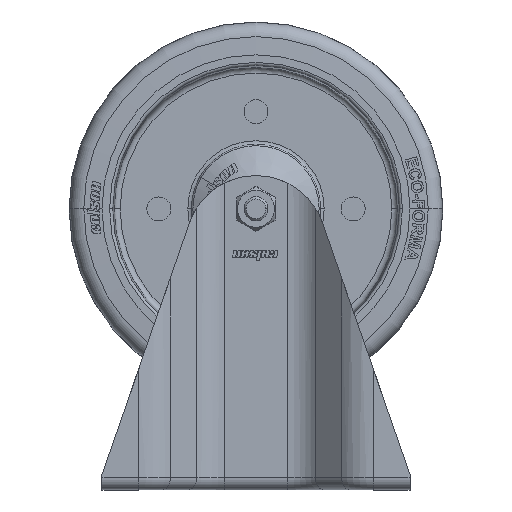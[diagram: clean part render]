
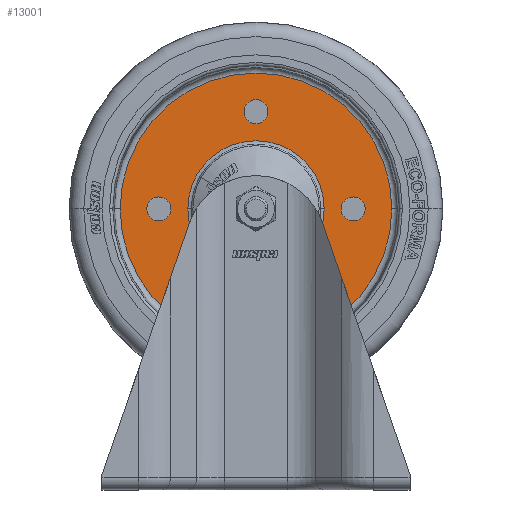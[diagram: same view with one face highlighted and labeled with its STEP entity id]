
A CAD part, top view. The second image highlights one B-rep face of the part: STEP entity #13001.
In plain terms, the highlighted planar face has unit normal (0, 0, 1) as drawn and (-1, 0, 0) by its records, which use the part's own axes.
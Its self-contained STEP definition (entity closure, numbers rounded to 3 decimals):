
#961 = DIRECTION ( 'NONE',  ( -1., 0., 0. ) ) ;
#1306 = DIRECTION ( 'NONE',  ( -1., 0., 0. ) ) ;
#2734 = AXIS2_PLACEMENT_3D ( 'NONE', #58687, #52808, #71253 ) ;
#4336 = CARTESIAN_POINT ( 'NONE',  ( -2., -32.5, 0. ) ) ;
#5084 = EDGE_CURVE ( 'NONE', #31053, #28667, #10895, .T. ) ;
#5343 = DIRECTION ( 'NONE',  ( 0., 0., 1. ) ) ;
#5409 = PLANE ( 'NONE',  #42028 ) ;
#5410 = CARTESIAN_POINT ( 'NONE',  ( -2., 0., -45.421 ) ) ;
#6661 = ORIENTED_EDGE ( 'NONE', *, *, #62305, .F. ) ;
#7422 = DIRECTION ( 'NONE',  ( 0., 0., 1. ) ) ;
#7760 = ORIENTED_EDGE ( 'NONE', *, *, #70949, .F. ) ;
#8503 = FACE_BOUND ( 'NONE', #46067, .T. ) ;
#10394 = ORIENTED_EDGE ( 'NONE', *, *, #43419, .F. ) ;
#10895 = CIRCLE ( 'NONE', #41081, 45.421 ) ;
#11906 = CARTESIAN_POINT ( 'NONE',  ( -2., 0., 0. ) ) ;
#12377 = CARTESIAN_POINT ( 'NONE',  ( -2., 0., 45.421 ) ) ;
#12525 = CARTESIAN_POINT ( 'NONE',  ( -2., 0., -36.5 ) ) ;
#12646 = DIRECTION ( 'NONE',  ( 0., 0., -1. ) ) ;
#13001 = ADVANCED_FACE ( 'NONE', ( #60869, #8503, #44600, #75246, #69502, #18909 ), #5409, .F. ) ;
#13676 = DIRECTION ( 'NONE',  ( 1., 0., 0. ) ) ;
#14541 = EDGE_LOOP ( 'NONE', ( #21733, #25104 ) ) ;
#14621 = CIRCLE ( 'NONE', #57820, 4. ) ;
#17137 = EDGE_CURVE ( 'NONE', #63671, #23058, #71146, .T. ) ;
#17236 = CARTESIAN_POINT ( 'NONE',  ( -2., 0., 0. ) ) ;
#18909 = FACE_BOUND ( 'NONE', #33753, .T. ) ;
#19173 = CARTESIAN_POINT ( 'NONE',  ( -2., 32.5, -4. ) ) ;
#19527 = AXIS2_PLACEMENT_3D ( 'NONE', #27380, #51623, #21035 ) ;
#20878 = VERTEX_POINT ( 'NONE', #12525 ) ;
#21035 = DIRECTION ( 'NONE',  ( 0., 0., 1. ) ) ;
#21733 = ORIENTED_EDGE ( 'NONE', *, *, #50581, .F. ) ;
#22369 = AXIS2_PLACEMENT_3D ( 'NONE', #4336, #46559, #40664 ) ;
#22648 = EDGE_LOOP ( 'NONE', ( #7760, #68994 ) ) ;
#23058 = VERTEX_POINT ( 'NONE', #72019 ) ;
#23475 = CARTESIAN_POINT ( 'NONE',  ( -2., 20.893, 0. ) ) ;
#24592 = EDGE_CURVE ( 'NONE', #20878, #42327, #14621, .T. ) ;
#24759 = CARTESIAN_POINT ( 'NONE',  ( -2., -32.5, 0. ) ) ;
#25104 = ORIENTED_EDGE ( 'NONE', *, *, #24592, .F. ) ;
#25150 = CIRCLE ( 'NONE', #73281, 4. ) ;
#25377 = CIRCLE ( 'NONE', #19527, 4. ) ;
#26169 = CARTESIAN_POINT ( 'NONE',  ( -2., 0., 0. ) ) ;
#27380 = CARTESIAN_POINT ( 'NONE',  ( -2., 0., 32.5 ) ) ;
#27461 = CARTESIAN_POINT ( 'NONE',  ( -2., 0., -22.791 ) ) ;
#28667 = VERTEX_POINT ( 'NONE', #5410 ) ;
#29602 = VERTEX_POINT ( 'NONE', #53202 ) ;
#29713 = EDGE_CURVE ( 'NONE', #31919, #68475, #46601, .T. ) ;
#30876 = DIRECTION ( 'NONE',  ( -1., 0., 0. ) ) ;
#31053 = VERTEX_POINT ( 'NONE', #12377 ) ;
#31549 = AXIS2_PLACEMENT_3D ( 'NONE', #26169, #13676, #44760 ) ;
#31915 = EDGE_CURVE ( 'NONE', #29602, #32644, #25377, .T. ) ;
#31919 = VERTEX_POINT ( 'NONE', #32702 ) ;
#32644 = VERTEX_POINT ( 'NONE', #73825 ) ;
#32702 = CARTESIAN_POINT ( 'NONE',  ( -2., 0., 22.791 ) ) ;
#33753 = EDGE_LOOP ( 'NONE', ( #57226, #33971 ) ) ;
#33833 = CIRCLE ( 'NONE', #47971, 4. ) ;
#33971 = ORIENTED_EDGE ( 'NONE', *, *, #29713, .T. ) ;
#34067 = AXIS2_PLACEMENT_3D ( 'NONE', #11906, #60899, #54465 ) ;
#35054 = CIRCLE ( 'NONE', #34067, 22.791 ) ;
#35254 = DIRECTION ( 'NONE',  ( -1., 0., 0. ) ) ;
#36708 = CIRCLE ( 'NONE', #60251, 4. ) ;
#37068 = DIRECTION ( 'NONE',  ( -1., 0., 0. ) ) ;
#39941 = EDGE_CURVE ( 'NONE', #64552, #77115, #36708, .T. ) ;
#40351 = CIRCLE ( 'NONE', #2734, 4. ) ;
#40664 = DIRECTION ( 'NONE',  ( 0., 0., 1. ) ) ;
#41081 = AXIS2_PLACEMENT_3D ( 'NONE', #17236, #35254, #59826 ) ;
#41185 = AXIS2_PLACEMENT_3D ( 'NONE', #67312, #961, #12646 ) ;
#41451 = DIRECTION ( 'NONE',  ( -1., 0., 0. ) ) ;
#41707 = CARTESIAN_POINT ( 'NONE',  ( -2., 32.5, 0. ) ) ;
#42028 = AXIS2_PLACEMENT_3D ( 'NONE', #23475, #52188, #64229 ) ;
#42327 = VERTEX_POINT ( 'NONE', #48770 ) ;
#43419 = EDGE_CURVE ( 'NONE', #23058, #63671, #25150, .T. ) ;
#44600 = FACE_BOUND ( 'NONE', #14541, .T. ) ;
#44760 = DIRECTION ( 'NONE',  ( 0., 0., -1. ) ) ;
#45159 = EDGE_LOOP ( 'NONE', ( #47244, #6661 ) ) ;
#46067 = EDGE_LOOP ( 'NONE', ( #76543, #10394 ) ) ;
#46559 = DIRECTION ( 'NONE',  ( -1., 0., 0. ) ) ;
#46601 = CIRCLE ( 'NONE', #31549, 22.791 ) ;
#47244 = ORIENTED_EDGE ( 'NONE', *, *, #39941, .F. ) ;
#47971 = AXIS2_PLACEMENT_3D ( 'NONE', #67499, #30876, #61587 ) ;
#48016 = EDGE_CURVE ( 'NONE', #68475, #31919, #35054, .T. ) ;
#48770 = CARTESIAN_POINT ( 'NONE',  ( -2., 0., -28.5 ) ) ;
#49326 = ORIENTED_EDGE ( 'NONE', *, *, #5084, .T. ) ;
#49329 = DIRECTION ( 'NONE',  ( 0., 0., 1. ) ) ;
#50581 = EDGE_CURVE ( 'NONE', #42327, #20878, #33833, .T. ) ;
#51623 = DIRECTION ( 'NONE',  ( -1., 0., 0. ) ) ;
#52159 = CIRCLE ( 'NONE', #41185, 45.421 ) ;
#52188 = DIRECTION ( 'NONE',  ( 1., 0., 0. ) ) ;
#52808 = DIRECTION ( 'NONE',  ( -1., 0., 0. ) ) ;
#52988 = AXIS2_PLACEMENT_3D ( 'NONE', #75111, #1306, #7422 ) ;
#53202 = CARTESIAN_POINT ( 'NONE',  ( -2., 0., 28.5 ) ) ;
#54465 = DIRECTION ( 'NONE',  ( 0., 0., -1. ) ) ;
#56387 = CIRCLE ( 'NONE', #52988, 4. ) ;
#56741 = CARTESIAN_POINT ( 'NONE',  ( -2., 32.5, 4. ) ) ;
#57226 = ORIENTED_EDGE ( 'NONE', *, *, #48016, .T. ) ;
#57820 = AXIS2_PLACEMENT_3D ( 'NONE', #73697, #37068, #49329 ) ;
#58687 = CARTESIAN_POINT ( 'NONE',  ( -2., 32.5, 0. ) ) ;
#59587 = EDGE_CURVE ( 'NONE', #28667, #31053, #52159, .T. ) ;
#59826 = DIRECTION ( 'NONE',  ( 0., 0., -1. ) ) ;
#60251 = AXIS2_PLACEMENT_3D ( 'NONE', #41707, #41451, #5343 ) ;
#60737 = DIRECTION ( 'NONE',  ( 0., 0., 1. ) ) ;
#60869 = FACE_BOUND ( 'NONE', #22648, .T. ) ;
#60899 = DIRECTION ( 'NONE',  ( 1., 0., 0. ) ) ;
#61516 = CARTESIAN_POINT ( 'NONE',  ( -2., -32.5, 4. ) ) ;
#61587 = DIRECTION ( 'NONE',  ( 0., 0., 1. ) ) ;
#62305 = EDGE_CURVE ( 'NONE', #77115, #64552, #40351, .T. ) ;
#63671 = VERTEX_POINT ( 'NONE', #61516 ) ;
#63887 = EDGE_LOOP ( 'NONE', ( #71108, #49326 ) ) ;
#64229 = DIRECTION ( 'NONE',  ( 0., 0., -1. ) ) ;
#64552 = VERTEX_POINT ( 'NONE', #56741 ) ;
#67312 = CARTESIAN_POINT ( 'NONE',  ( -2., 0., 0. ) ) ;
#67499 = CARTESIAN_POINT ( 'NONE',  ( -2., 0., -32.5 ) ) ;
#68475 = VERTEX_POINT ( 'NONE', #27461 ) ;
#68994 = ORIENTED_EDGE ( 'NONE', *, *, #31915, .F. ) ;
#69502 = FACE_OUTER_BOUND ( 'NONE', #63887, .T. ) ;
#70949 = EDGE_CURVE ( 'NONE', #32644, #29602, #56387, .T. ) ;
#71108 = ORIENTED_EDGE ( 'NONE', *, *, #59587, .T. ) ;
#71146 = CIRCLE ( 'NONE', #22369, 4. ) ;
#71253 = DIRECTION ( 'NONE',  ( 0., 0., 1. ) ) ;
#72019 = CARTESIAN_POINT ( 'NONE',  ( -2., -32.5, -4. ) ) ;
#73281 = AXIS2_PLACEMENT_3D ( 'NONE', #24759, #78943, #60737 ) ;
#73697 = CARTESIAN_POINT ( 'NONE',  ( -2., 0., -32.5 ) ) ;
#73825 = CARTESIAN_POINT ( 'NONE',  ( -2., 0., 36.5 ) ) ;
#75111 = CARTESIAN_POINT ( 'NONE',  ( -2., 0., 32.5 ) ) ;
#75246 = FACE_BOUND ( 'NONE', #45159, .T. ) ;
#76543 = ORIENTED_EDGE ( 'NONE', *, *, #17137, .F. ) ;
#77115 = VERTEX_POINT ( 'NONE', #19173 ) ;
#78943 = DIRECTION ( 'NONE',  ( -1., 0., 0. ) ) ;
